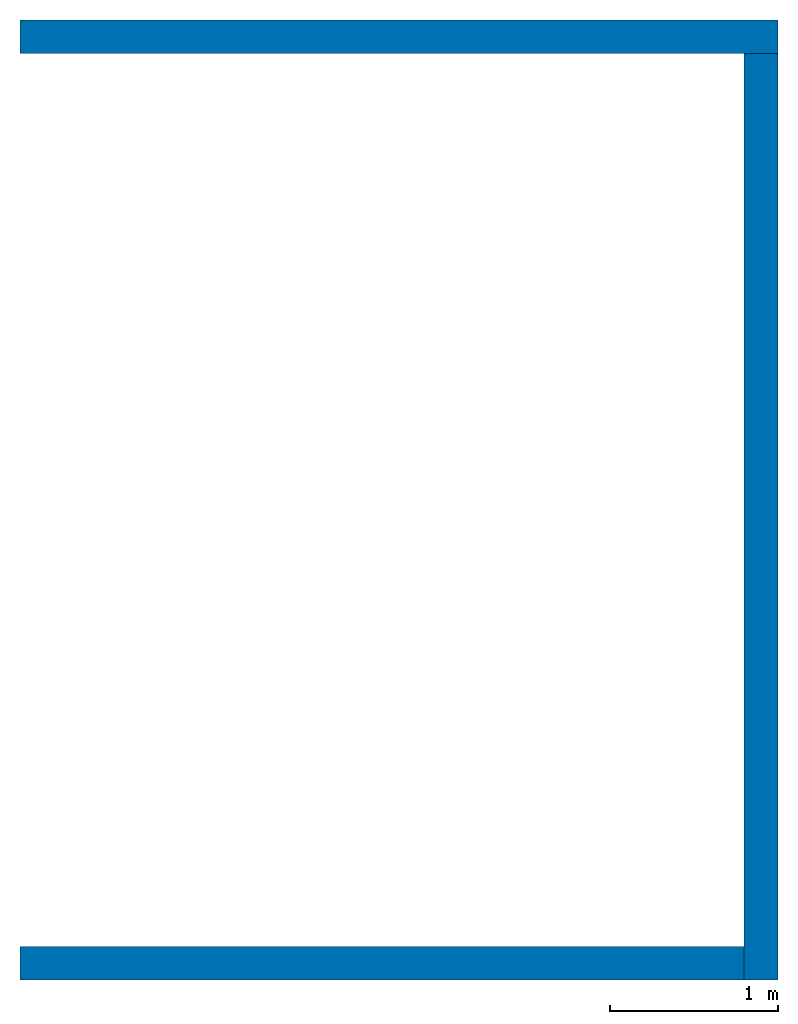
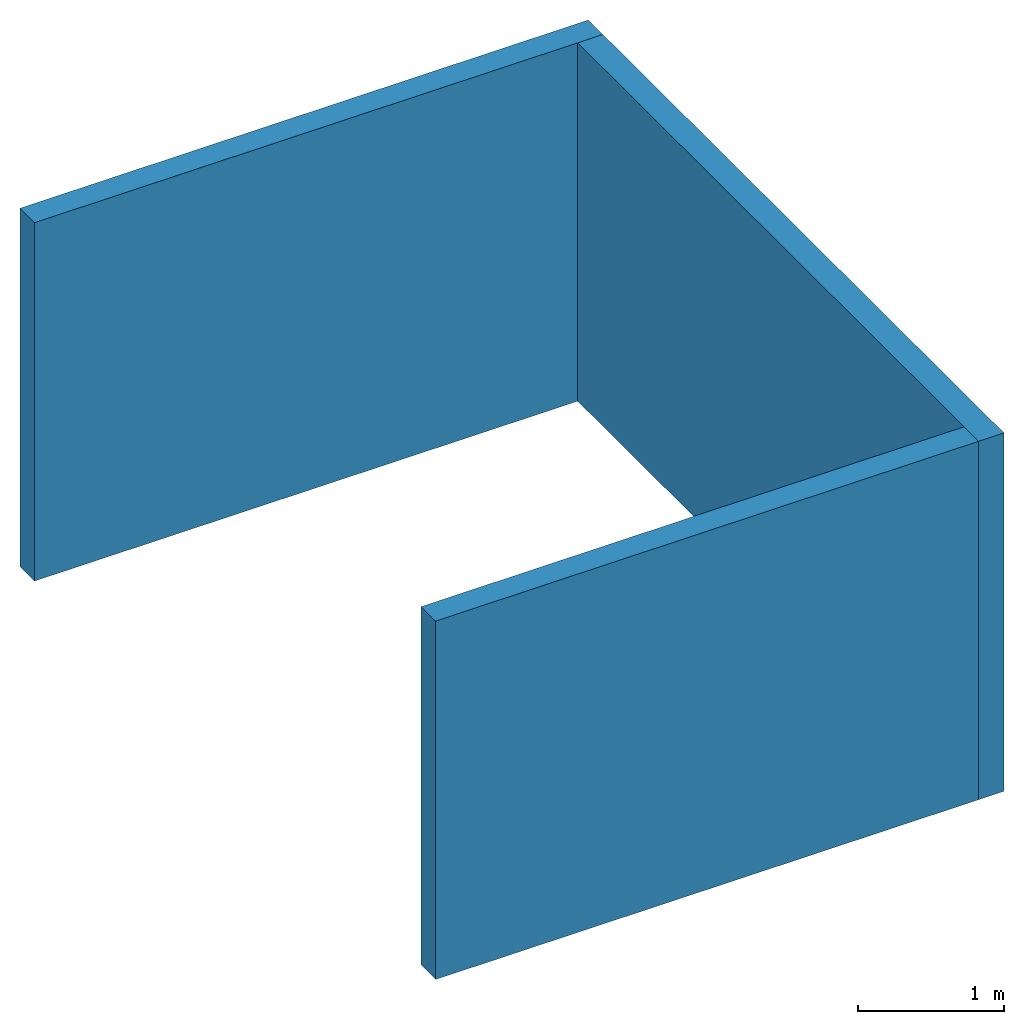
# One storey: 3 walls.
"""IFC2X3 building model written with IfcOpenShell, lengths in metres."""

from ifc_helpers import new_model, entity, si_unit, converted_unit, derived_unit, direction, frame, frame_2d, origin, place, context, subcontext, project, spatial, rectangle, extrude, material, layer, layer_set, layer_usage, type_object, element, save


model = new_model("IFC2X3")

# Units and contexts
model_context = context("Model", 3, precision=1e-05, world=origin(), true_north=direction((6.12303176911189e-17, 1.0)))
body_context = subcontext(model_context, "Body", "Model", "MODEL_VIEW")
ifc_project = project(units=[si_unit("LENGTHUNIT", "METRE"), si_unit("AREAUNIT", "SQUARE_METRE"), si_unit("VOLUMEUNIT", "CUBIC_METRE"), converted_unit("PLANEANGLEUNIT", "DEGREE", entity("IfcRatioMeasure", 0.0174532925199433), si_unit("PLANEANGLEUNIT", "RADIAN"), dimensions=[0, 0, 0, 0, 0, 0, 0]), si_unit("MASSUNIT", "GRAM", prefix="KILO"), derived_unit("MASSDENSITYUNIT", [(si_unit("MASSUNIT", "GRAM", prefix="KILO"), 1), (si_unit("LENGTHUNIT", "METRE"), -3)]), si_unit("TIMEUNIT", "SECOND"), si_unit("FREQUENCYUNIT", "HERTZ"), si_unit("THERMODYNAMICTEMPERATUREUNIT", "DEGREE_CELSIUS"), derived_unit("THERMALTRANSMITTANCEUNIT", [(si_unit("MASSUNIT", "GRAM", prefix="KILO"), 1), (si_unit("THERMODYNAMICTEMPERATUREUNIT", "KELVIN"), -1), (si_unit("TIMEUNIT", "SECOND"), -3)]), derived_unit("VOLUMETRICFLOWRATEUNIT", [(si_unit("LENGTHUNIT", "METRE"), 3), (si_unit("TIMEUNIT", "SECOND"), -1)]), si_unit("ELECTRICCURRENTUNIT", "AMPERE"), si_unit("ELECTRICVOLTAGEUNIT", "VOLT"), si_unit("POWERUNIT", "WATT"), si_unit("FORCEUNIT", "NEWTON", prefix="KILO"), si_unit("ILLUMINANCEUNIT", "LUX"), si_unit("LUMINOUSFLUXUNIT", "LUMEN"), si_unit("LUMINOUSINTENSITYUNIT", "CANDELA"), derived_unit("USERDEFINED", [(si_unit("MASSUNIT", "GRAM", prefix="KILO"), -1), (si_unit("LENGTHUNIT", "METRE"), -2), (si_unit("TIMEUNIT", "SECOND"), 3), (si_unit("LUMINOUSFLUXUNIT", "LUMEN"), 1)]), derived_unit("LINEARVELOCITYUNIT", [(si_unit("LENGTHUNIT", "METRE"), 1), (si_unit("TIMEUNIT", "SECOND"), -1)]), si_unit("PRESSUREUNIT", "PASCAL"), derived_unit("USERDEFINED", [(si_unit("LENGTHUNIT", "METRE"), -2), (si_unit("MASSUNIT", "GRAM", prefix="KILO"), 1), (si_unit("TIMEUNIT", "SECOND"), -2)])], contexts=[model_context])

# Site, building, storey
site_placement = place(None, origin())
site = spatial("IfcSite", under=ifc_project, at=site_placement, Name="Default", CompositionType="ELEMENT")
building_placement = place(site_placement, origin())
building = spatial("IfcBuilding", under=site, at=building_placement, CompositionType="ELEMENT")
storey_placement = place(building_placement, origin())
storey = spatial("IfcBuildingStorey", under=building, at=storey_placement, Name="Niveau 0", CompositionType="ELEMENT", Elevation=-1.94916083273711e-14)

# Walls
ifc_material = material(Name="Mur par défaut")
ifc_layer = layer(ifc_material, 0.2)
ifc_layer_set = layer_set([ifc_layer], Name="Mur de base:Générique - Ext. 200 mm")
ifc_layer_usage_1 = layer_usage(ifc_layer_set, "AXIS2", "NEGATIVE", 0.1)
wall_type = type_object("IfcWallType", Name="Mur de base:Générique - Ext. 200 mm", PredefinedType="STANDARD", material=ifc_layer_set)
wall_1_placement = place(storey_placement, frame((-5.6641083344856, 1.74946206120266, 0.0)))
element("IfcWallStandardCase", 1, at=wall_1_placement, inside=storey, type_object=wall_type, material=ifc_layer_usage_1, Name="Mur de base:Générique - Ext. 200 mm", ObjectType="Mur de base:Générique - Ext. 200 mm", context=body_context, shape_type="SweptSolid", body=[
    extrude(rectangle(XDim=4.5, YDim=0.2, at=frame_2d((2.25, 3.46944695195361e-17), x_axis=(-1.0, 0.0))), origin(), (0.0, 0.0, 1.0), 3.0),
])
ifc_layer_usage_2 = layer_usage(ifc_layer_set, "AXIS2", "NEGATIVE", 0.1)
wall_2_placement = place(storey_placement, frame((-1.2641083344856, 1.64946206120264, 0.0), z_axis=(0.0, 0.0, 1.0), x_axis=(0.0, -1.0, 0.0)))
element("IfcWallStandardCase", 2, at=wall_2_placement, inside=storey, type_object=wall_type, material=ifc_layer_usage_2, Name="Mur de base:Générique - Ext. 200 mm", ObjectType="Mur de base:Générique - Ext. 200 mm", context=body_context, shape_type="SweptSolid", body=[
    extrude(rectangle(XDim=5.5, YDim=0.2, at=frame_2d((2.75, 0.0), x_axis=(-1.0, 0.0))), origin(), (0.0, 0.0, 1.0), 3.0),
])
ifc_layer_usage_3 = layer_usage(ifc_layer_set, "AXIS2", "NEGATIVE", 0.1)
wall_3_placement = place(storey_placement, frame((-1.3641083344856, -3.75053793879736, 0.0), z_axis=(0.0, 0.0, 1.0), x_axis=(-1.0, 0.0, 0.0)))
element("IfcWallStandardCase", 3, at=wall_3_placement, inside=storey, type_object=wall_type, material=ifc_layer_usage_3, Name="Mur de base:Générique - Ext. 200 mm", ObjectType="Mur de base:Générique - Ext. 200 mm", context=body_context, shape_type="SweptSolid", body=[
    extrude(rectangle(XDim=4.30000000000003, YDim=0.2, at=frame_2d((2.15000000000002, 1.11022302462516e-16), x_axis=(-1.0, 0.0))), origin(), (0.0, 0.0, 1.0), 3.0),
])

save(model, "model.ifc")
